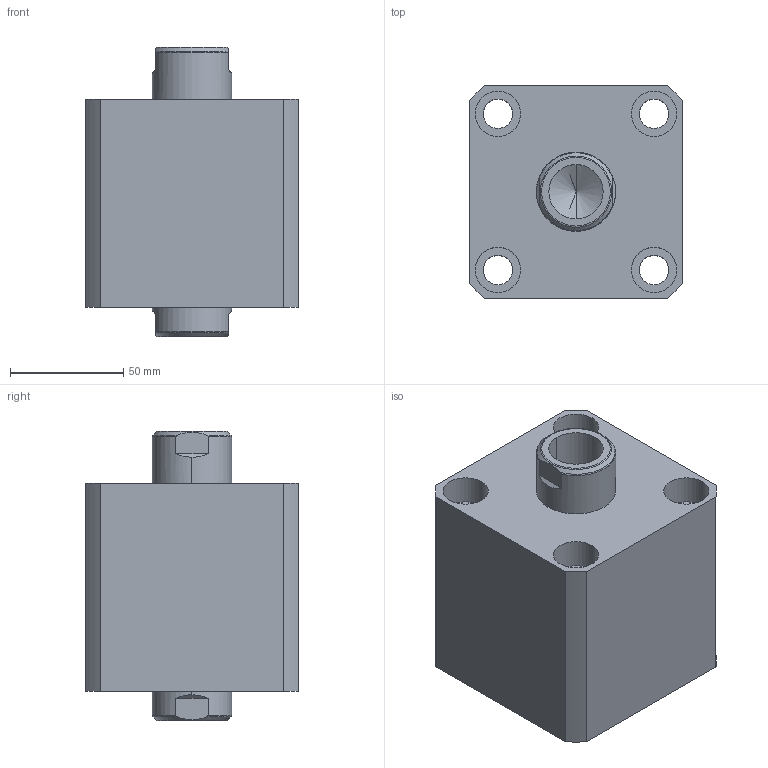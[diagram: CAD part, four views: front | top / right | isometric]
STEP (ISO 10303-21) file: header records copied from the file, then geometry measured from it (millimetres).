
FILE_DESCRIPTION (( 'STEP AP214' ), '1' );
FILE_NAME ('chtb-sw63x10n_asm.STEP', '2018-05-12T01:25:41', ( 'Windows' ), ( 'Microsoft' ), 'SwSTEP 2.0', 'SolidWorks 2015', '' );
FILE_SCHEMA (( 'AUTOMOTIVE_DESIGN' ));
Length unit declared in the file: millimetre
Products named in the file (4): CHTB-SW63X10NHSG; CHTB-SW63X10NBT; CHTB-63QG; chtb-sw63x10n_asm
Assembly tree (3 placements, depth 2):
  chtb-sw63x10n_asm
    CHTB-63QG
    CHTB-SW63X10NBT
    CHTB-SW63X10NHSG
Bounding box: 94 x 94 x 128 mm (x, y, z)
Volume: 724738.5 mm3; surface area: 128483.7 mm2
Topology: 3 solids, 3 shells, 184 faces, 515 edges, 349 vertices
Faces by surface type: cylinder 106, plane 38, cone 16, bspline 12, torus 12
Entity records: 18385 total; most frequent: CARTESIAN_POINT 13775, ORIENTED_EDGE 1014, DIRECTION 814, EDGE_CURVE 507, VERTEX_POINT 349, AXIS2_PLACEMENT_3D 331, EDGE_LOOP 220, ADVANCED_FACE 184
